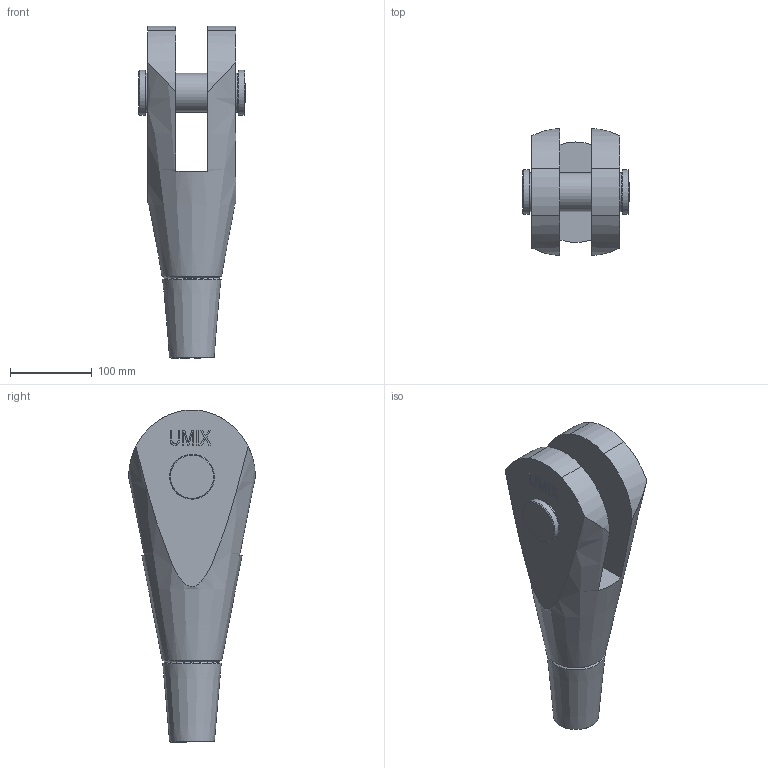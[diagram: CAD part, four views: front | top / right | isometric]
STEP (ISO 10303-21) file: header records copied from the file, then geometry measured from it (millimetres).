
FILE_DESCRIPTION(/* description */ (''),/* implementation_level */ '2;1');
FILE_NAME(/* name */ 'C:\Vault_WS\Designs\520-048-GAK.stp',/* time_stamp */ '2020-06-25T07:56:14+02:00',/* author */ ('schwarz'),/* organization */ (''),/* preprocessor_version */ 'ST-DEVELOPER v16.1',/* originating_system */ 'Autodesk Inventor 2016',/* authorisation */ '');
FILE_SCHEMA (('AUTOMOTIVE_DESIGN { 1 0 10303 214 3 1 1 }'));
Length unit declared in the file: centimetre
Products named in the file (1): 520-048-GAK-KMU-Kunde
Bounding box: 130.44 x 155.43 x 406.74 mm (x, y, z)
Volume: 2709486.1 mm3; surface area: 225185.8 mm2
Topology: 2 solids, 4 shells, 186 faces, 483 edges, 320 vertices
Faces by surface type: plane 136, bspline 21, cylinder 16, cone 13
Full cylindrical faces by diameter (mm): 10.106 x1, 12 x1, 13.5 x1, 23.12 x1, 48 x1, 50.5 x1, 51 x2, 55 x2
Entity records: 5777 total; most frequent: CARTESIAN_POINT 1272, ORIENTED_EDGE 900, DIRECTION 768, EDGE_CURVE 450, LINE 348, VECTOR 348, VERTEX_POINT 310, EDGE_LOOP 230
